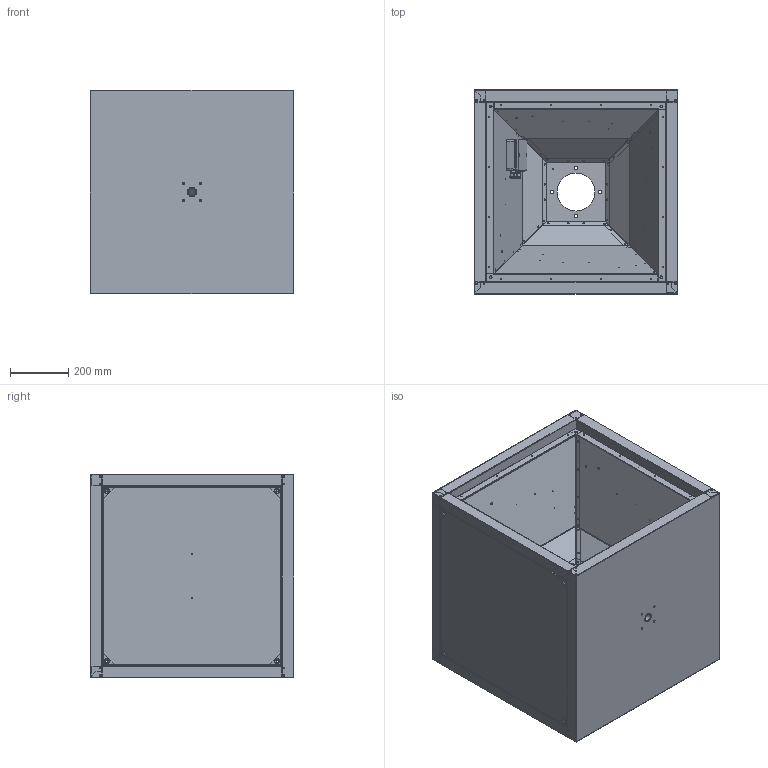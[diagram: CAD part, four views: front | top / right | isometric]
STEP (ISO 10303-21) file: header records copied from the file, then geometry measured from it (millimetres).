
FILE_DESCRIPTION (( 'STEP AP203' ), '1' );
FILE_NAME ('149321-00_MPC355ECT30_step.step', '2018-10-24T10:53:41', ( '' ), ( '' ), 'SwSTEP 2.0', 'SolidWorks 2017', '' );
FILE_SCHEMA (( 'CONFIG_CONTROL_DESIGN' ));
Length unit declared in the file: millimetre
Products named in the file (1): 149321-00_MPC355ECT30_step
Bounding box: 700 x 700.1 x 700 mm (x, y, z)
Surface area: 6871989.6 mm2 (no closed solid volume)
Topology: 0 solids, 175 shells, 781 faces, 4182 edges, 3541 vertices
Faces by surface type: cylinder 366, plane 330, torus 48, cone 29, bspline 8
Entity records: 44301 total; most frequent: CARTESIAN_POINT 10817, DIRECTION 7221, ORIENTED_EDGE 5110, EDGE_CURVE 4182, VERTEX_POINT 3541, AXIS2_PLACEMENT_3D 2490, LINE 2241, VECTOR 2241
